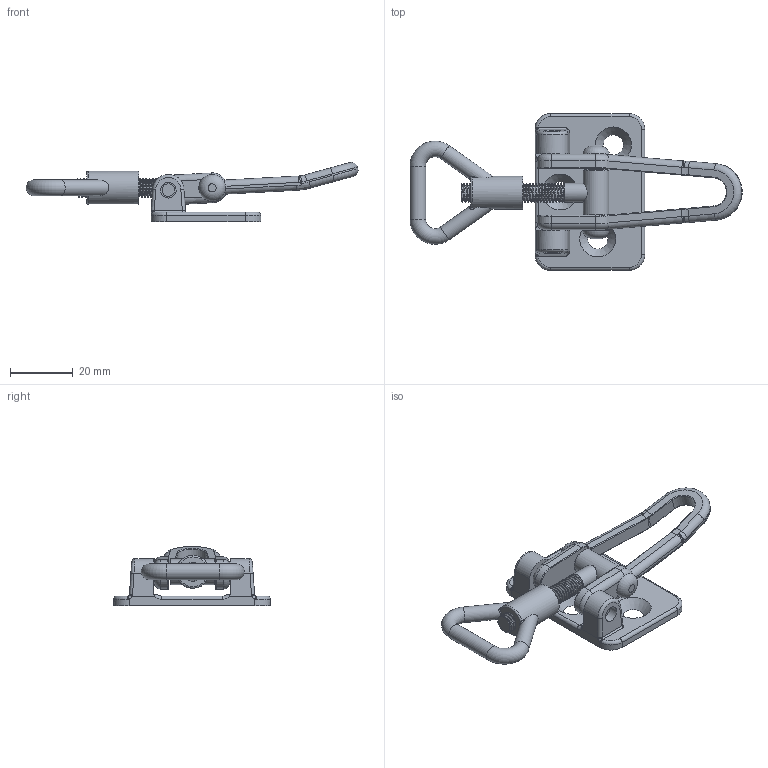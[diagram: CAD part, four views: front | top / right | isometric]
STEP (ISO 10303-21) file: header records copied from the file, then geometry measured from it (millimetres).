
FILE_DESCRIPTION(/* description */ ('Unknown'),/* implementation_level */ '2;1');
FILE_NAME(/* name */ '3929.01.04',/* time_stamp */ '2025-09-09T08:17:56+02:00',/* author */ ('Unknown'),/* organization */ ('Unknown'),/* preprocessor_version */ 'ST-DEVELOPER v16.7',/* originating_system */ 'DEX',/* authorisation */ $);
FILE_SCHEMA (('AUTOMOTIVE_DESIGN {1 0 10303 214 3 1 1}'));
Length unit declared in the file: millimetre
Products named in the file (6): 3929.01.04; Grundplatte; Griff; Stift; Halter; Gewindebolzen klein
Assembly tree (5 placements, depth 2):
  3929.01.04
    Grundplatte
    Griff
    Stift
    Halter
    Gewindebolzen klein
Bounding box: 105.91 x 50 x 18.85 mm (x, y, z)
Volume: 13784.4 mm3; surface area: 11642.3 mm2
Topology: 5 solids, 5 shells, 233 faces, 592 edges, 372 vertices
Faces by surface type: cylinder 105, plane 54, torus 36, bspline 35, cone 3
Full cylindrical faces by diameter (mm): 4 x3, 4.2 x2, 4.5 x1, 4.917 x1, 5 x5, 6 x33, 8.2 x1, 10.5 x1
Entity records: 12984 total; most frequent: CARTESIAN_POINT 8391, DIRECTION 937, ORIENTED_EDGE 910, EDGE_CURVE 455, AXIS2_PLACEMENT_3D 400, VERTEX_POINT 293, EDGE_LOOP 246, FACE_BOUND 246
